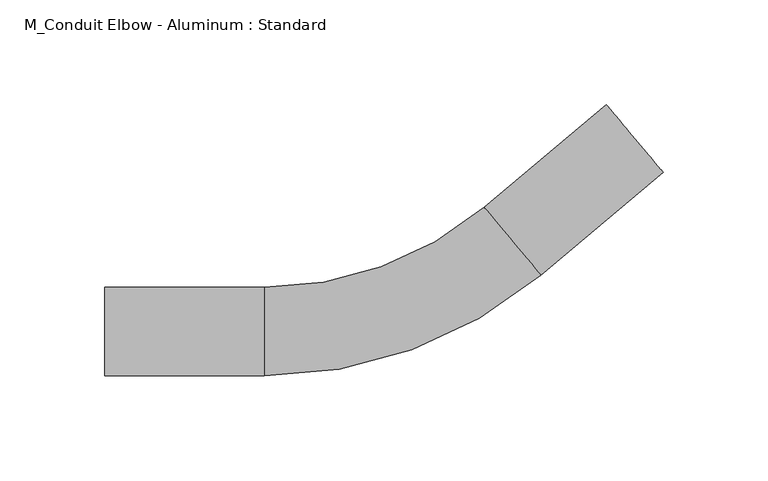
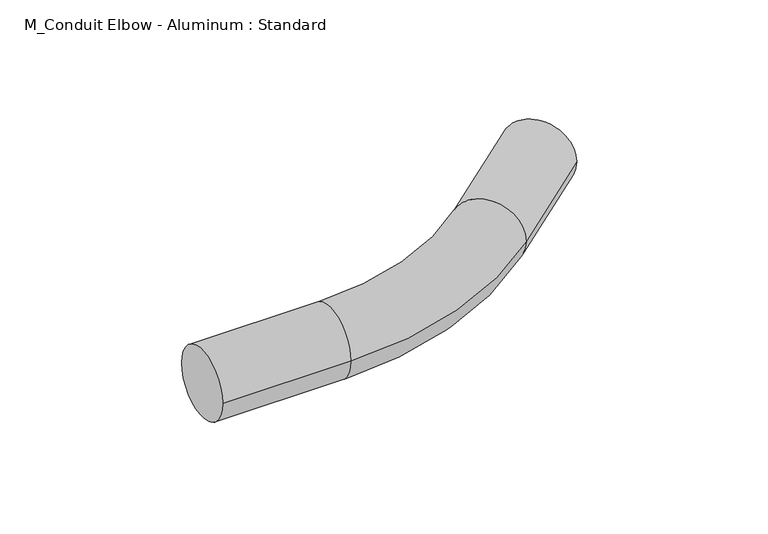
"""IFC4 building model written with IfcOpenShell, lengths in millimetres: cable carrier fitting geometry, M_Conduit Elbow - Aluminum : Standard."""

from ifc_helpers import new_model, si_unit, point, frame, origin, place, context, project, spatial, circle_curve, ellipse_curve, trimmed, source, transform, mapped, element, save
from ifc_brep_helpers import plane_surface, cylinder_surface, revolved_surface, advanced_brep


def m_conduit_elbow_aluminum_standard_c7115e71(model_context):
    return source(origin(), model_context, "Body", "AdvancedBrep", [
        advanced_brep(
        [(-143.2251186, -21.082, 0.0), (-143.2251186, 21.082, 0.0), (-67.0251186, -21.082, 0.0), (-67.0251186, 21.082, 0.0), (37.7929713, 59.2326647, 0.0), (64.8954681, 26.9331668, 0.0), (123.2680546, 75.9135827, 0.0), (96.1655579, 108.2130806, 0.0)],
        [
            (0, 1, circle_curve(frame((-143.2251186, 0.0, 0.0), z_axis=(-1.0, 0.0, 0.0), x_axis=(0.0, 1.0, 0.0)), 21.082)),
            (1, 0, circle_curve(frame((-143.2251186, 0.0, 0.0), z_axis=(-1.0, 0.0, 0.0), x_axis=(0.0, 1.0, 0.0)), 21.082)),
            (0, 2),
            (2, 3, circle_curve(frame((-67.0251186, 0.0, 0.0), z_axis=(-1.0, 0.0, 0.0), x_axis=(0.0, 1.0, 0.0)), 21.082)),
            (3, 1),
            (3, 2, circle_curve(frame((-67.0251186, 0.0, 0.0), z_axis=(-1.0, 0.0, 0.0), x_axis=(0.0, 1.0, 0.0)), 21.082)),
            (4, 3, circle_curve(frame((-67.0251186, 184.15, 0.0), z_axis=(0.0, 0.0, -1.0), x_axis=(0.0, -1.0, 0.0)), 163.068)),
            (2, 5, circle_curve(frame((-67.0251186, 184.15, 0.0), z_axis=(0.0, 0.0, 1.0), x_axis=(0.0, -1.0, 0.0)), 205.232)),
            (5, 4, circle_curve(frame((51.3442197, 43.0829158, 0.0), z_axis=(-0.7660444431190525, -0.6427876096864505, 0.0), x_axis=(-0.6427876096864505, 0.7660444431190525, 0.0)), 21.082)),
            (4, 5, circle_curve(frame((51.3442197, 43.0829158, 0.0), z_axis=(-0.7660444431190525, -0.6427876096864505, 0.0), x_axis=(-0.6427876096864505, 0.7660444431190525, 0.0)), 21.082)),
            (6, 7, circle_curve(frame((109.7168062, 92.0633317, 0.0), z_axis=(0.7660444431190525, 0.6427876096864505, 0.0), x_axis=(-0.6427876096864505, 0.7660444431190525, 0.0)), 21.082)),
            (7, 6, circle_curve(frame((109.7168062, 92.0633317, 0.0), z_axis=(0.7660444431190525, 0.6427876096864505, 0.0), x_axis=(-0.6427876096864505, 0.7660444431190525, 0.0)), 21.082)),
            (5, 6),
            (7, 4),
        ],
        [
            plane_surface(frame((-143.2251186, 0.0, 0.0), z_axis=(-1.0, 0.0, 0.0), x_axis=(0.0, 0.0, 1.0))),
            cylinder_surface(frame((-143.2251186, 0.0, 0.0), z_axis=(-1.0, 0.0, 0.0), x_axis=(0.0, 1.0, 0.0)), 21.082),
            revolved_surface(trimmed(ellipse_curve(frame((-67.0251186, 0.0, 0.0), z_axis=(-1.0, 0.0, 0.0), x_axis=(0.0, 1.0, 0.0)), 21.082, 21.082), [point((-67.0251186, -21.082, 0.0))], [point((-67.0251186, 21.082, 0.0))], True, "CARTESIAN"), (-67.0251186, 184.15, 0.0), (0.0, 0.0, 1.0)),
            revolved_surface(trimmed(ellipse_curve(frame((-67.0251186, 0.0, 0.0), z_axis=(-1.0, 0.0, 0.0), x_axis=(0.0, 1.0, 0.0)), 21.082, 21.082), [point((-67.0251186, 21.082, 0.0))], [point((-67.0251186, -21.082, 0.0))], True, "CARTESIAN"), (-67.0251186, 184.15, 0.0), (0.0, 0.0, 1.0)),
            plane_surface(frame((109.7168062, 92.0633317, 0.0), z_axis=(0.7660444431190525, 0.6427876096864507, 0.0), x_axis=(0.0, 0.0, 1.0))),
            cylinder_surface(frame((51.3442197, 43.0829158, 0.0), z_axis=(-0.7660444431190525, -0.6427876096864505, 0.0), x_axis=(-0.6427876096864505, 0.7660444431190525, 0.0)), 21.082),
        ],
        [
            (0, [[1, 2]]),
            (1, [[-1, 3, 4, 5]]),
            (1, [[-2, -5, 6, -3]]),
            (2, [[7, -4, 8, 9]]),
            (3, [[-8, -6, -7, 10]]),
            (4, [[11, 12]]),
            (5, [[-9, 13, -12, 14]]),
            (5, [[-10, -14, -11, -13]]),
        ],
    ),
    ])


if __name__ == "__main__":
    model = new_model("IFC4")
    model_context = context("Model", 3, world=origin())
    ifc_project = project(units=[si_unit("LENGTHUNIT", "METRE", prefix="MILLI")], contexts=[model_context])
    site = spatial("IfcSite", under=ifc_project)
    building = spatial("IfcBuilding", under=site)
    placement = place(None, origin())
    m_conduit_elbow_aluminum_standard_shape = m_conduit_elbow_aluminum_standard_c7115e71(model_context)
    element("IfcCableCarrierFitting", 1, ObjectType="M_Conduit Elbow - Aluminum : Standard", at=placement, inside=building, context=model_context, shape_type="MappedRepresentation", body=[
        mapped(m_conduit_elbow_aluminum_standard_shape, transform((0.0, 0.0, 0.0), x_axis=(1.0, 0.0, 0.0), y_axis=(0.0, 1.0, 0.0), z_axis=(0.0, 0.0, 1.0))),
    ])
    save(model, "model.ifc")
